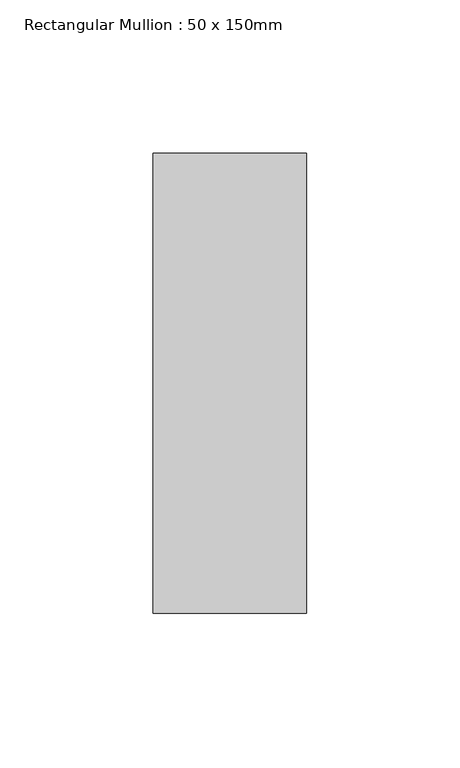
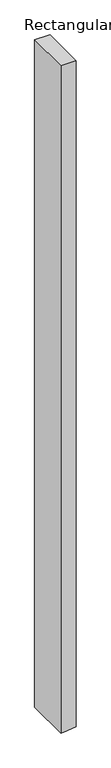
"""IFC4 building model written with IfcOpenShell, lengths in millimetres: member geometry, Rectangular Mullion : 50 x 150mm."""

from ifc_helpers import new_model, si_unit, frame, origin, place, context, project, spatial, polyline, outline, extrude, source, transform, mapped, element, save


def rectangular_mullion_50_x_150mm_19e97b97(model_context):
    return source(origin(), model_context, "Body", "SweptSolid", [
        extrude(outline(polyline([(0.0, 25.0), (0.0, -25.0), (-2330.5337245, -25.0), (-2328.5229573, -5.0022633), (-2325.5062377, 25.0), (0.0, 25.0)])), frame((0.0, -75.0, 0.0), z_axis=(0.0, 1.0, 0.0), x_axis=(0.0, 0.0, 1.0)), (0.0, 0.0, 1.0), 150.0),
    ])


if __name__ == "__main__":
    model = new_model("IFC4")
    model_context = context("Model", 3, world=origin())
    ifc_project = project(units=[si_unit("LENGTHUNIT", "METRE", prefix="MILLI")], contexts=[model_context])
    site = spatial("IfcSite", under=ifc_project)
    building = spatial("IfcBuilding", under=site)
    placement = place(None, origin())
    rectangular_mullion_50_x_150mm_shape = rectangular_mullion_50_x_150mm_19e97b97(model_context)
    element("IfcMember", 1, ObjectType="Rectangular Mullion : 50 x 150mm", at=placement, inside=building, context=model_context, shape_type="MappedRepresentation", body=[
        mapped(rectangular_mullion_50_x_150mm_shape, transform((0.0, 0.0, 0.0), x_axis=(1.0, 0.0, 0.0), y_axis=(0.0, 1.0, 0.0), z_axis=(0.0, 0.0, 1.0))),
    ])
    save(model, "model.ifc")
